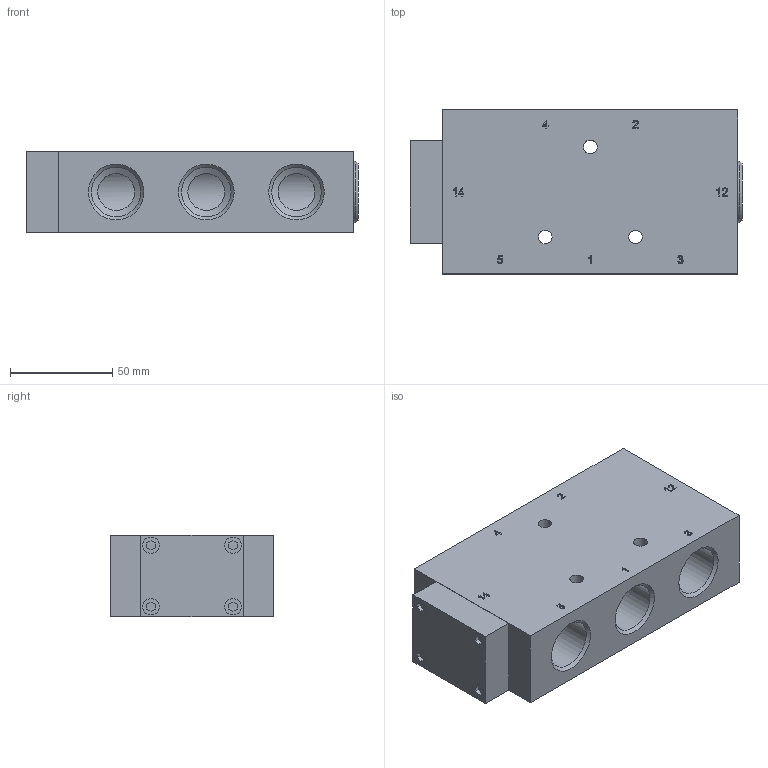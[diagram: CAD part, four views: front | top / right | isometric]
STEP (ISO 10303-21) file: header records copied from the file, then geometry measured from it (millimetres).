
FILE_DESCRIPTION( ( 'Unknown' ), '1' );
FILE_NAME( 'Q:/Solid Edge ST4/weblap modellek/stp/második adag/P 510 181.stp', 'Unknown', ( 'Unknown' ), ( 'Unknown' ), 'PSStep 14.0', 'Unknown', ' ' );
FILE_SCHEMA( ( 'AUTOMOTIVE_DESIGN { 1 0 10303 214 1 1 1 1 }' ) );
Length unit declared in the file: millimetre
Products named in the file (4): Assem1; -oa0
Assembly tree (3 placements, depth 2):
  Assem1
    -oa0
    -oa0
    -oa0
Bounding box: 162 x 80 x 40 mm (x, y, z)
Surface area: 66093.7 mm2 (no closed solid volume)
Topology: 0 solids, 203 shells, 203 faces, 1068 edges, 1032 vertices
Faces by surface type: plane 139, extrusion 31, cylinder 21, cone 12
Full cylindrical faces by diameter (mm): 6.6 x3, 8 x4, 8.566 x2, 24.117 x10, 28 x1, 30 x1
Entity records: 12758 total; most frequent: CARTESIAN_POINT 4966, DIRECTION 1361, ORIENTED_EDGE 1011, EDGE_CURVE 1011, VERTEX_POINT 1011, VECTOR 813, LINE 782, FACE_BOUND 289
